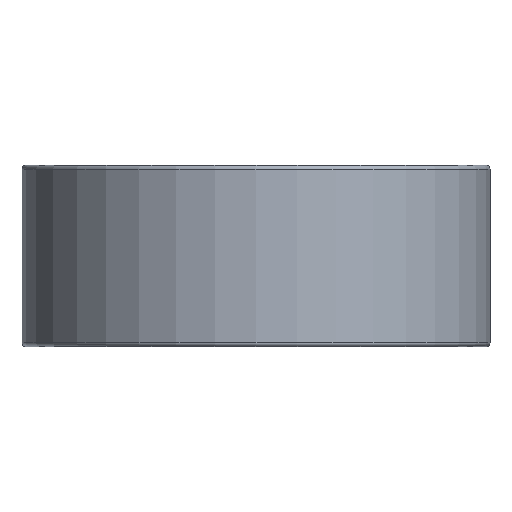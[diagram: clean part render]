
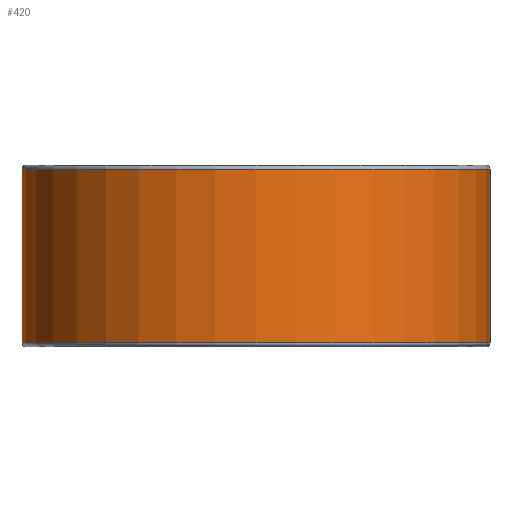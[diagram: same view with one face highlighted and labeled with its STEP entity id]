
A CAD part, front view. The second image highlights one B-rep face of the part: STEP entity #420.
In plain terms, the highlighted cylindrical face has radius 15.5 mm (diameter 31 mm), a full revolution.
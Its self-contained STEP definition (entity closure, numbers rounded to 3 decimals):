
#420=ADVANCED_FACE('',(#496,#497),#480,.T.);
#480=CYLINDRICAL_SURFACE('',#1119,15.5);
#496=FACE_BOUND('',#544,.T.);
#497=FACE_BOUND('',#545,.T.);
#544=EDGE_LOOP('',(#632));
#545=EDGE_LOOP('',(#633));
#632=ORIENTED_EDGE('',*,*,#948,.T.);
#633=ORIENTED_EDGE('',*,*,#949,.T.);
#864=VERTEX_POINT('',#1524);
#865=VERTEX_POINT('',#1526);
#948=EDGE_CURVE('',#864,#864,#1064,.T.);
#949=EDGE_CURVE('',#865,#865,#1065,.T.);
#1064=CIRCLE('',#1117,15.5);
#1065=CIRCLE('',#1118,15.5);
#1117=AXIS2_PLACEMENT_3D('',#1523,#1232,#1233);
#1118=AXIS2_PLACEMENT_3D('',#1525,#1234,#1235);
#1119=AXIS2_PLACEMENT_3D('',#1527,#1236,#1237);
#1232=DIRECTION('',(0.,0.,1.));
#1233=DIRECTION('',(1.,0.,0.));
#1234=DIRECTION('',(0.,0.,-1.));
#1235=DIRECTION('',(1.,0.,0.));
#1236=DIRECTION('',(0.,0.,-1.));
#1237=DIRECTION('',(-1.,0.,0.));
#1523=CARTESIAN_POINT('',(0.,0.,0.25));
#1524=CARTESIAN_POINT('',(15.5,0.,0.25));
#1525=CARTESIAN_POINT('',(0.,0.,11.75));
#1526=CARTESIAN_POINT('',(15.5,0.,11.75));
#1527=CARTESIAN_POINT('',(0.,0.,12.));
